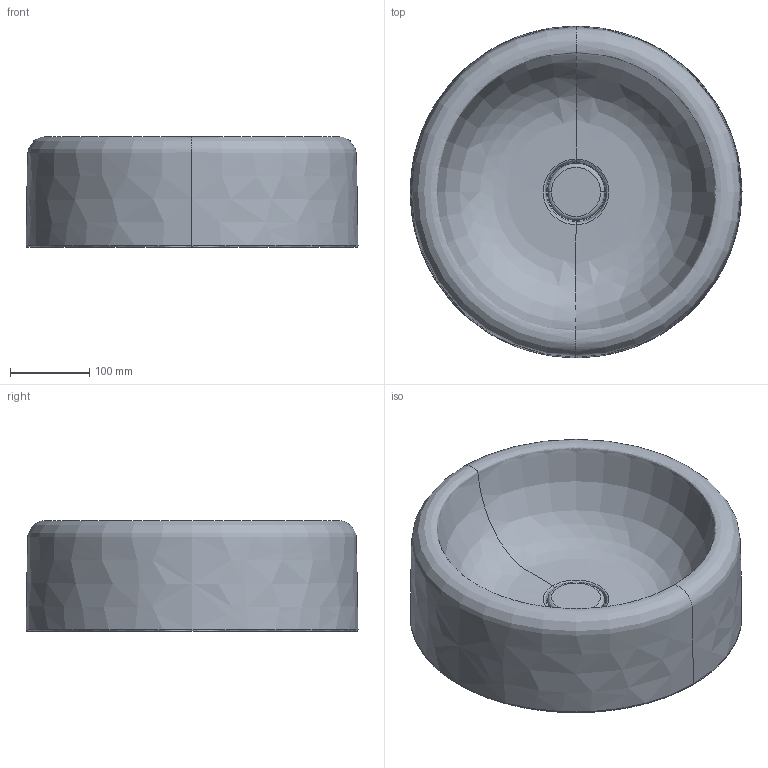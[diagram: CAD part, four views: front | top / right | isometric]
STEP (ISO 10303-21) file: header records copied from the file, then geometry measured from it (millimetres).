
FILE_DESCRIPTION(/* description */ (''),/* implementation_level */ '2;1');
FILE_NAME(/* name */ 'SDR RONDO'' DIAMETRO 42',/* time_stamp */ '2026-05-08T15:12:17+02:00',/* author */ (''),/* organization */ (''),/* preprocessor_version */ 'ST-DEVELOPER v19.2',/* originating_system */ 'Rhino 8.30',/* authorisation */ '');
FILE_SCHEMA (('CONFIG_CONTROL_DESIGN'));
Length unit declared in the file: millimetre
Products named in the file (1): Document
Bounding box: 419.93 x 419.93 x 139.96 mm (x, y, z)
Volume: 10658738 mm3; surface area: 519406.9 mm2
Topology: 2 solids, 2 shells, 18 faces, 34 edges, 18 vertices
Faces by surface type: bspline 10, plane 4, cylinder 4
Entity records: 1496 total; most frequent: CARTESIAN_POINT 1094, ORIENTED_EDGE 68, DIRECTION 56, EDGE_CURVE 34, AXIS2_PLACEMENT_3D 32, TRIMMED_CURVE 22, CIRCLE 22, ADVANCED_FACE 18
